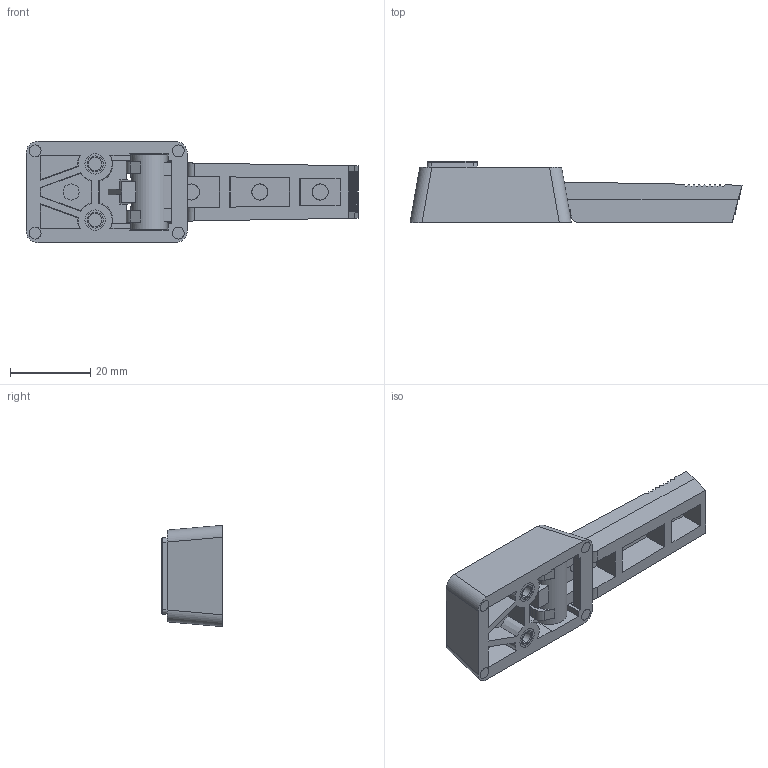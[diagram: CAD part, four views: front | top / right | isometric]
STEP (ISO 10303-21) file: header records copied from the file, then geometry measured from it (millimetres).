
FILE_DESCRIPTION (( 'STEP AP203' ), '1' );
FILE_NAME ('A-952.STEP', '2022-01-14T06:04:14', ( '' ), ( '' ), 'SwSTEP 2.0', 'SolidWorks 2021', '' );
FILE_SCHEMA (( 'CONFIG_CONTROL_DESIGN' ));
Length unit declared in the file: millimetre
Products named in the file (5): on_taraf; ayak; A-650-0-0-P-0-11295; A-952; conta_rev1
Assembly tree (5 placements, depth 2):
  A-952
    on_taraf
    ayak
    conta_rev1
    A-650-0-0-P-0-11295  x2
Bounding box: 82.84 x 15.2 x 25.3 mm (x, y, z)
Volume: 13717 mm3; surface area: 10103.8 mm2
Topology: 5 solids, 5 shells, 503 faces, 1321 edges, 856 vertices
Faces by surface type: plane 193, cylinder 150, bspline 118, cone 32, torus 10
Entity records: 13078 total; most frequent: CARTESIAN_POINT 3507, ORIENTED_EDGE 2028, DIRECTION 1684, EDGE_CURVE 1014, VERTEX_POINT 654, VECTOR 592, LINE 592, AXIS2_PLACEMENT_3D 546
